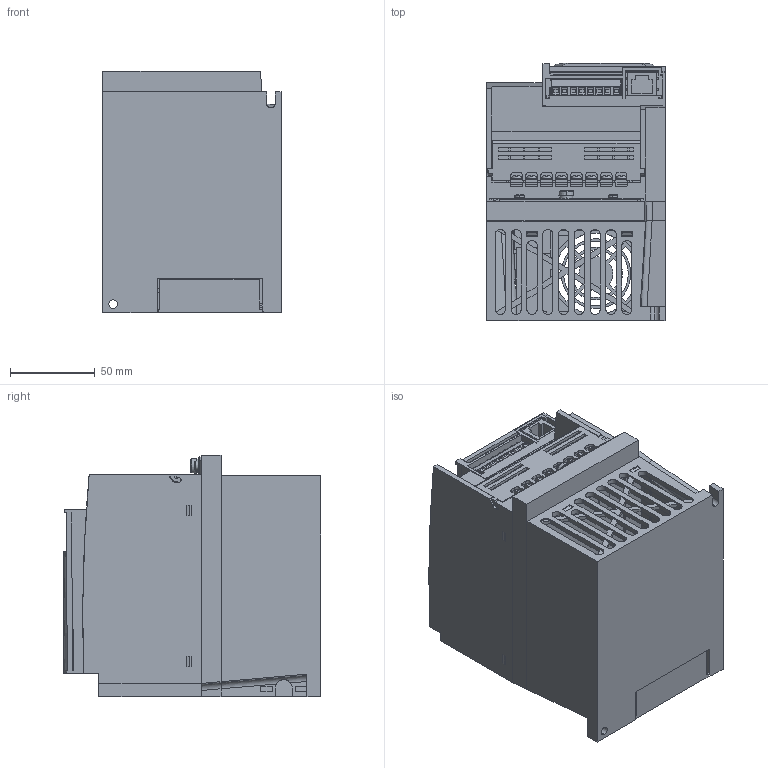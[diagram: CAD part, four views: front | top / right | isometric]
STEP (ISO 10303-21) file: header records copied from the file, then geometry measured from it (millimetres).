
FILE_DESCRIPTION(('STEP AP242'),'1');
FILE_NAME('atv310hu15n4.stp','2019-08-20T01:29:10',('TraceParts'),('TraceParts S.A.'),'Spatial InterOp 3D',' ',' ');
FILE_SCHEMA(('AP242_MANAGED_MODEL_BASED_3D_ENGINEERING_MIM_LF {1 0 10303 442 1 1 4}'));
Length unit declared in the file: millimetre
Products named in the file (1): atv310hu15n4_1
Bounding box: 105.5 x 151.35 x 142 mm (x, y, z)
Volume: 380983.4 mm3; surface area: 297877.2 mm2
Topology: 21 solids, 21 shells, 3277 faces, 9077 edges, 5973 vertices
Faces by surface type: plane 2534, cylinder 627, bspline 72, cone 44
Entity records: 132152 total; most frequent: CARTESIAN_POINT 21291, ORIENTED_EDGE 18134, DIRECTION 16520, EDGE_CURVE 9067, LINE 7166, VECTOR 7166, VERTEX_POINT 5973, AXIS2_PLACEMENT_3D 4677
